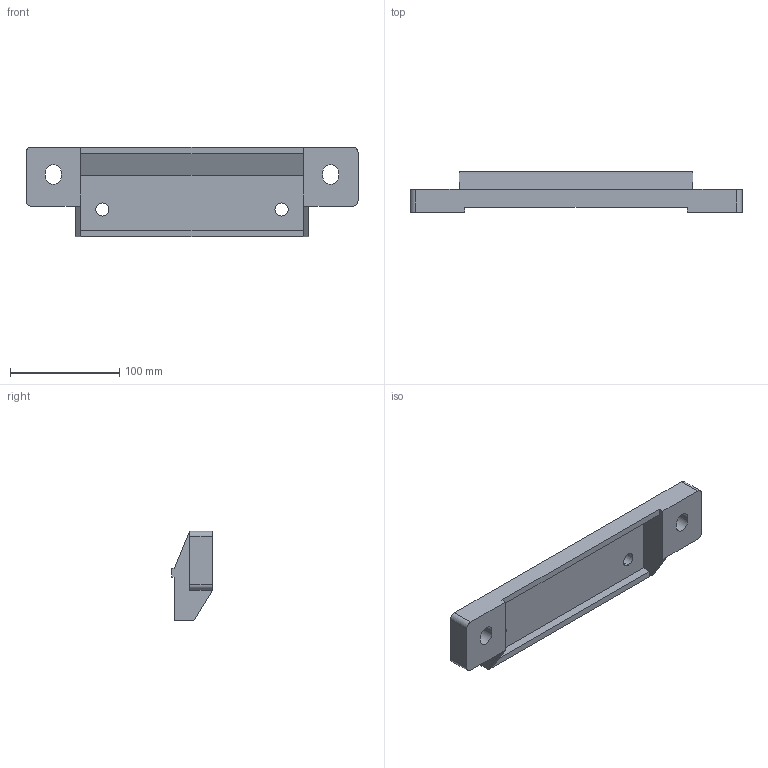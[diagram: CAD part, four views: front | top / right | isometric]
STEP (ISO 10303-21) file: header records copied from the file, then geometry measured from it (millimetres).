
FILE_DESCRIPTION (( 'STEP AP203' ), '1' );
FILE_NAME ('160菁褐L.STEP', '2023-02-21T10:22:38', ( '' ), ( '' ), 'SwSTEP 2.0', 'SolidWorks 2018', '' );
FILE_SCHEMA (( 'CONFIG_CONTROL_DESIGN' ));
Length unit declared in the file: millimetre
Products named in the file (1): 160菁褐L
Bounding box: 304 x 37.5 x 82 mm (x, y, z)
Volume: 287793.1 mm3; surface area: 71612.7 mm2
Topology: 1 solids, 1 shells, 45 faces, 123 edges, 80 vertices
Faces by surface type: plane 31, cylinder 14
Entity records: 1510 total; most frequent: CARTESIAN_POINT 249, ORIENTED_EDGE 246, DIRECTION 243, EDGE_CURVE 123, LINE 95, VECTOR 95, VERTEX_POINT 80, AXIS2_PLACEMENT_3D 74
